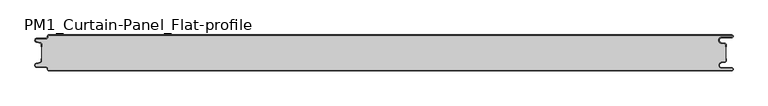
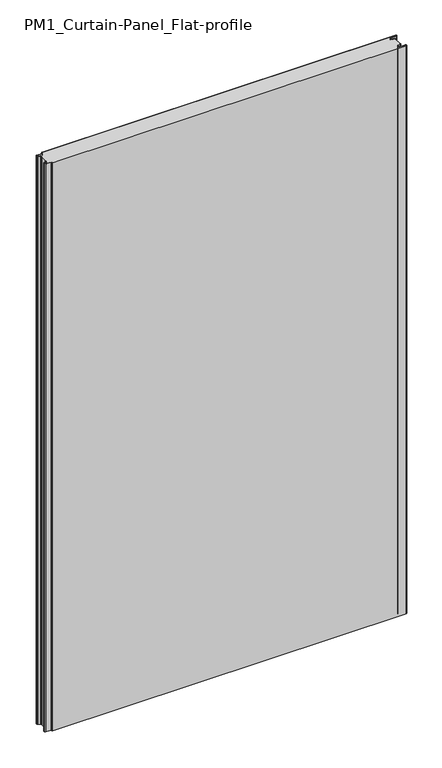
"""IFC4 building model written with IfcOpenShell, lengths in millimetres: plate geometry, PM1_Curtain-Panel_Flat-profile : ACH_PM1_Stone-wool-Panel_60M."""

from ifc_helpers import new_model, si_unit, point, frame_2d, origin, origin_with_axes, place, context, project, spatial, polyline, circle_curve, trimmed, segment, composite_curve, outline, extrude, source, transform, mapped, element, save


def pm1_curtain_panel_flat_profile_9da28195(model_context):
    return source(origin(), model_context, "Body", "SweptSolid", [
        extrude(outline(composite_curve([segment(polyline([(-562.4, 0.0), (583.1, 0.0)]), True, "CONTINUOUS"), segment(trimmed(circle_curve(frame_2d((583.1, -2.5)), 2.5), [point((583.1, 0.0))], [point((583.1, -5.0))], False, "CARTESIAN"), True, "CONTINUOUS"), segment(polyline([(583.1, -5.0), (566.1, -5.0)]), True, "CONTINUOUS"), segment(trimmed(circle_curve(frame_2d((566.1, -9.0)), 4.0), [point((566.1, -5.0))], [point((565.4054075, -12.939231))], True, "CARTESIAN"), True, "CONTINUOUS"), segment(polyline([(565.4054075, -12.939231), (571.8514851, -14.075848)]), True, "CONTINUOUS"), segment(trimmed(circle_curve(frame_2d((571.4, -16.636348)), 2.6), [point((571.8514851, -14.075848))], [point((574.0, -16.636348))], False, "CARTESIAN"), True, "CONTINUOUS"), segment(polyline([(574.0, -16.636348), (574.0, -20.0), (573.2, -20.0), (573.2, -16.636348)]), True, "CONTINUOUS"), segment(trimmed(circle_curve(frame_2d((571.4, -16.636348)), 1.8), [point((573.2, -16.636348))], [point((571.7125666, -14.863694))], True, "CARTESIAN"), True, "CONTINUOUS"), segment(polyline([(571.7125666, -14.863694), (565.266489, -13.7270771)]), True, "CONTINUOUS"), segment(trimmed(circle_curve(frame_2d((566.1, -9.0)), 4.8), [point((565.266489, -13.7270771))], [point((566.1, -4.2))], False, "CARTESIAN"), True, "CONTINUOUS"), segment(polyline([(566.1, -4.2), (583.1, -4.2)]), True, "CONTINUOUS"), segment(trimmed(circle_curve(frame_2d((583.1, -2.5)), 1.7), [point((583.1, -4.2))], [point((583.1, -0.8))], True, "CARTESIAN"), True, "CONTINUOUS"), segment(polyline([(583.1, -0.8), (-562.4, -0.8)]), True, "CONTINUOUS"), segment(trimmed(circle_curve(frame_2d((-562.4, -2.0)), 1.2), [point((-562.4, -0.8))], [point((-563.6, -2.0))], True, "CARTESIAN"), True, "CONTINUOUS"), segment(polyline([(-563.6, -2.0), (-563.6, -3.4)]), True, "CONTINUOUS"), segment(trimmed(circle_curve(frame_2d((-566.4, -3.4)), 2.8), [point((-563.6, -3.4))], [point((-566.4, -6.2))], False, "CARTESIAN"), True, "CONTINUOUS"), segment(polyline([(-566.4, -6.2), (-581.9, -6.2)]), True, "CONTINUOUS"), segment(trimmed(circle_curve(frame_2d((-581.9, -9.0)), 2.8), [point((-581.9, -6.2))], [point((-582.529863, -11.7282362))], True, "CARTESIAN"), True, "CONTINUOUS"), segment(polyline([(-582.529863, -11.7282362), (-576.370137, -13.150321)]), True, "CONTINUOUS"), segment(trimmed(circle_curve(frame_2d((-577.0, -15.878557)), 2.8), [point((-576.370137, -13.150321))], [point((-574.2, -15.878557))], False, "CARTESIAN"), True, "CONTINUOUS"), segment(polyline([(-574.2, -15.878557), (-574.2, -20.0), (-575.0, -20.0), (-575.0, -15.878557)]), True, "CONTINUOUS"), segment(trimmed(circle_curve(frame_2d((-577.0, -15.878557)), 2.0), [point((-575.0, -15.878557))], [point((-576.5500978, -13.9298169))], True, "CARTESIAN"), True, "CONTINUOUS"), segment(polyline([(-576.5500978, -13.9298169), (-582.7098239, -12.507732)]), True, "CONTINUOUS"), segment(trimmed(circle_curve(frame_2d((-581.9, -9.0)), 3.6), [point((-582.7098239, -12.507732))], [point((-581.9, -5.4))], False, "CARTESIAN"), True, "CONTINUOUS"), segment(polyline([(-581.9, -5.4), (-566.4, -5.4)]), True, "CONTINUOUS"), segment(trimmed(circle_curve(frame_2d((-566.4, -3.4)), 2.0), [point((-566.4, -5.4))], [point((-564.4, -3.4))], True, "CARTESIAN"), True, "CONTINUOUS"), segment(polyline([(-564.4, -3.4), (-564.4, -2.0)]), True, "CONTINUOUS"), segment(trimmed(circle_curve(frame_2d((-562.4, -2.0)), 2.0), [point((-564.4, -2.0))], [point((-562.4, 0.0))], False, "CARTESIAN"), True, "CONTINUOUS")], self_intersect=False)), origin_with_axes(), (0.0, 0.0, 1.0), 1945.7507136),
        extrude(outline(composite_curve([segment(polyline([(-574.2, -44.1214426), (-574.2, -15.8785573)]), True, "CONTINUOUS"), segment(trimmed(circle_curve(frame_2d((-577.0, -15.8785573)), 2.8), [point((-574.2, -15.8785573))], [point((-576.370137, -13.1503212))], True, "CARTESIAN"), True, "CONTINUOUS"), segment(polyline([(-576.370137, -13.1503212), (-582.5298631, -11.7282362)]), True, "CONTINUOUS"), segment(trimmed(circle_curve(frame_2d((-581.9, -9.0)), 2.8), [point((-582.5298631, -11.7282362))], [point((-581.9, -6.2))], False, "CARTESIAN"), True, "CONTINUOUS"), segment(polyline([(-581.9, -6.2), (-566.4000001, -6.2)]), True, "CONTINUOUS"), segment(trimmed(circle_curve(frame_2d((-566.4000001, -3.4)), 2.8), [point((-566.4000001, -6.2))], [point((-563.6000001, -3.4))], True, "CARTESIAN"), True, "CONTINUOUS"), segment(polyline([(-563.6000001, -3.4), (-563.6000001, -2.0)]), True, "CONTINUOUS"), segment(trimmed(circle_curve(frame_2d((-562.4000001, -2.0)), 1.2), [point((-563.6000001, -2.0))], [point((-562.4000001, -0.8))], False, "CARTESIAN"), True, "CONTINUOUS"), segment(polyline([(-562.4000001, -0.8), (583.1, -0.8)]), True, "CONTINUOUS"), segment(trimmed(circle_curve(frame_2d((583.1, -2.5)), 1.7), [point((583.1, -0.8))], [point((583.1, -4.2))], False, "CARTESIAN"), True, "CONTINUOUS"), segment(polyline([(583.1, -4.2), (566.1, -4.2)]), True, "CONTINUOUS"), segment(trimmed(circle_curve(frame_2d((566.1, -9.0)), 4.8), [point((566.1, -4.2))], [point((565.2664883, -13.7270771))], True, "CARTESIAN"), True, "CONTINUOUS"), segment(polyline([(565.2664883, -13.7270771), (571.7125668, -14.8636953)]), True, "CONTINUOUS"), segment(trimmed(circle_curve(frame_2d((571.4, -16.6363492)), 1.8), [point((571.7125668, -14.8636953))], [point((573.2, -16.6363492))], False, "CARTESIAN"), True, "CONTINUOUS"), segment(polyline([(573.2, -16.6363492), (573.2, -43.3636508)]), True, "CONTINUOUS"), segment(trimmed(circle_curve(frame_2d((571.4, -43.3636508)), 1.8), [point((573.2, -43.3636508))], [point((571.7125668, -45.1363047))], False, "CARTESIAN"), True, "CONTINUOUS"), segment(polyline([(571.7125668, -45.1363047), (565.2664883, -46.2729229)]), True, "CONTINUOUS"), segment(trimmed(circle_curve(frame_2d((566.1, -51.0)), 4.8), [point((565.2664883, -46.2729229))], [point((566.1, -55.8))], True, "CARTESIAN"), True, "CONTINUOUS"), segment(polyline([(566.1, -55.8), (583.1, -55.8)]), True, "CONTINUOUS"), segment(trimmed(circle_curve(frame_2d((583.1, -57.5)), 1.7), [point((583.1, -55.8))], [point((583.1, -59.2))], False, "CARTESIAN"), True, "CONTINUOUS"), segment(polyline([(583.1, -59.2), (-562.4000001, -59.2)]), True, "CONTINUOUS"), segment(trimmed(circle_curve(frame_2d((-562.4000001, -58.0)), 1.2), [point((-562.4000001, -59.2))], [point((-563.6000001, -58.0))], False, "CARTESIAN"), True, "CONTINUOUS"), segment(polyline([(-563.6000001, -58.0), (-563.6000001, -56.6)]), True, "CONTINUOUS"), segment(trimmed(circle_curve(frame_2d((-566.4000001, -56.6)), 2.8), [point((-563.6000001, -56.6))], [point((-566.4000001, -53.8))], True, "CARTESIAN"), True, "CONTINUOUS"), segment(polyline([(-566.4000001, -53.8), (-581.9, -53.8)]), True, "CONTINUOUS"), segment(trimmed(circle_curve(frame_2d((-581.9, -51.0)), 2.8), [point((-581.9, -53.8))], [point((-582.5298631, -48.2717638))], False, "CARTESIAN"), True, "CONTINUOUS"), segment(polyline([(-582.5298631, -48.2717638), (-576.370137, -46.8496788)]), True, "CONTINUOUS"), segment(trimmed(circle_curve(frame_2d((-577.0, -44.1214426)), 2.8), [point((-576.370137, -46.8496788))], [point((-574.2, -44.1214426))], True, "CARTESIAN"), True, "CONTINUOUS")], self_intersect=False)), origin_with_axes(), (0.0, 0.0, 1.0), 1945.7507136),
        extrude(outline(composite_curve([segment(polyline([(583.1, -60.0), (-562.4, -60.0)]), True, "CONTINUOUS"), segment(trimmed(circle_curve(frame_2d((-562.4, -58.0)), 2.0), [point((-562.4, -60.0))], [point((-564.4, -58.0))], False, "CARTESIAN"), True, "CONTINUOUS"), segment(polyline([(-564.4, -58.0), (-564.4, -56.6)]), True, "CONTINUOUS"), segment(trimmed(circle_curve(frame_2d((-566.4, -56.6)), 2.0), [point((-564.4, -56.6))], [point((-566.4, -54.6))], True, "CARTESIAN"), True, "CONTINUOUS"), segment(polyline([(-566.4, -54.6), (-581.9, -54.6)]), True, "CONTINUOUS"), segment(trimmed(circle_curve(frame_2d((-581.9, -51.0)), 3.6), [point((-581.9, -54.6))], [point((-582.7098239, -47.4922678))], False, "CARTESIAN"), True, "CONTINUOUS"), segment(polyline([(-582.7098239, -47.4922678), (-576.5500979, -46.070183)]), True, "CONTINUOUS"), segment(trimmed(circle_curve(frame_2d((-577.0, -44.121443)), 2.0), [point((-576.5500979, -46.070183))], [point((-575.0, -44.121443))], True, "CARTESIAN"), True, "CONTINUOUS"), segment(polyline([(-575.0, -44.121443), (-575.0, -40.0), (-574.2, -40.0), (-574.2, -44.121443)]), True, "CONTINUOUS"), segment(trimmed(circle_curve(frame_2d((-577.0, -44.121443)), 2.8), [point((-574.2, -44.121443))], [point((-576.370137, -46.8496792))], False, "CARTESIAN"), True, "CONTINUOUS"), segment(polyline([(-576.370137, -46.8496792), (-582.529863, -48.271764)]), True, "CONTINUOUS"), segment(trimmed(circle_curve(frame_2d((-581.9, -51.0)), 2.8), [point((-582.529863, -48.271764))], [point((-581.9, -53.8))], True, "CARTESIAN"), True, "CONTINUOUS"), segment(polyline([(-581.9, -53.8), (-566.4, -53.8)]), True, "CONTINUOUS"), segment(trimmed(circle_curve(frame_2d((-566.4, -56.6)), 2.8), [point((-566.4, -53.8))], [point((-563.6, -56.6))], False, "CARTESIAN"), True, "CONTINUOUS"), segment(polyline([(-563.6, -56.6), (-563.6, -58.0)]), True, "CONTINUOUS"), segment(trimmed(circle_curve(frame_2d((-562.4, -58.0)), 1.2), [point((-563.6, -58.0))], [point((-562.4, -59.2))], True, "CARTESIAN"), True, "CONTINUOUS"), segment(polyline([(-562.4, -59.2), (583.1, -59.2)]), True, "CONTINUOUS"), segment(trimmed(circle_curve(frame_2d((583.1, -57.5)), 1.7), [point((583.1, -59.2))], [point((583.1, -55.8))], True, "CARTESIAN"), True, "CONTINUOUS"), segment(polyline([(583.1, -55.8), (566.1, -55.8)]), True, "CONTINUOUS"), segment(trimmed(circle_curve(frame_2d((566.1, -51.0)), 4.8), [point((566.1, -55.8))], [point((565.266489, -46.2729227))], False, "CARTESIAN"), True, "CONTINUOUS"), segment(polyline([(565.266489, -46.2729227), (571.7125666, -45.1363058)]), True, "CONTINUOUS"), segment(trimmed(circle_curve(frame_2d((571.4, -43.363652)), 1.8), [point((571.7125666, -45.1363058))], [point((573.2, -43.363652))], True, "CARTESIAN"), True, "CONTINUOUS"), segment(polyline([(573.2, -43.363652), (573.2, -40.0), (574.0, -40.0), (574.0, -43.363652)]), True, "CONTINUOUS"), segment(trimmed(circle_curve(frame_2d((571.4, -43.363652)), 2.6), [point((574.0, -43.363652))], [point((571.8514851, -45.9241522))], False, "CARTESIAN"), True, "CONTINUOUS"), segment(polyline([(571.8514851, -45.9241522), (565.4054075, -47.0607691)]), True, "CONTINUOUS"), segment(trimmed(circle_curve(frame_2d((566.1, -51.0)), 4.0), [point((565.4054075, -47.0607691))], [point((566.1, -55.0))], True, "CARTESIAN"), True, "CONTINUOUS"), segment(polyline([(566.1, -55.0), (583.1, -55.0)]), True, "CONTINUOUS"), segment(trimmed(circle_curve(frame_2d((583.1, -57.5)), 2.5), [point((583.1, -55.0))], [point((583.1, -60.0))], False, "CARTESIAN"), True, "CONTINUOUS")], self_intersect=False)), origin_with_axes(), (0.0, 0.0, 1.0), 1945.7507136),
    ])


if __name__ == "__main__":
    model = new_model("IFC4")
    model_context = context("Model", 3, world=origin())
    ifc_project = project(units=[si_unit("LENGTHUNIT", "METRE", prefix="MILLI")], contexts=[model_context])
    site = spatial("IfcSite", under=ifc_project)
    building = spatial("IfcBuilding", under=site)
    placement = place(None, origin())
    pm1_curtain_panel_flat_profile_shape = pm1_curtain_panel_flat_profile_9da28195(model_context)
    element("IfcPlate", 1, ObjectType="PM1_Curtain-Panel_Flat-profile : ACH_PM1_Stone-wool-Panel_60M", at=placement, inside=building, context=model_context, shape_type="MappedRepresentation", body=[
        mapped(pm1_curtain_panel_flat_profile_shape, transform((0.0, 0.0, 0.0), x_axis=(1.0, 0.0, 0.0), y_axis=(0.0, 1.0, 0.0), z_axis=(0.0, 0.0, 1.0))),
    ])
    save(model, "model.ifc")
